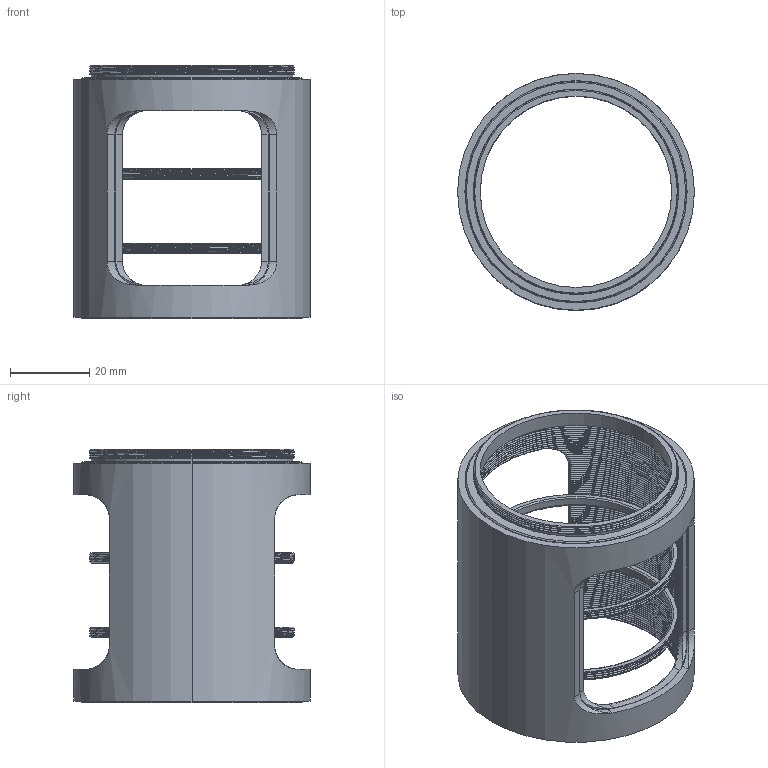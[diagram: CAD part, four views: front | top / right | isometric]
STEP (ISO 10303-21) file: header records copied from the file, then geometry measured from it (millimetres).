
FILE_DESCRIPTION((''),'2;1');
FILE_NAME('CSA2-60V3L_ASM','2021-05-11T',('Administrator'),(''),'CREO PARAMETRIC BY PTC INC, 2015290','CREO PARAMETRIC BY PTC INC, 2015290','');
FILE_SCHEMA(('CONFIG_CONTROL_DESIGN'));
Products named in the file (4): CSA2-60V3L_A1; CSA2-60V3L_A2; CSK4; CSA2-60V3L_ASM
Assembly tree (4 placements, depth 2):
  CSA2-60V3L_ASM
    CSA2-60V3L_A1
    CSA2-60V3L_A2
    CSK4  x2
Bounding box: 59.69 x 59.69 x 63.81 mm (x, y, z)
Volume: 27887.1 mm3; surface area: 38849.1 mm2
Topology: 4 solids, 4 shells, 660 faces, 1897 edges, 1253 vertices
Faces by surface type: bspline 315, cylinder 263, plane 58, cone 24
Entity records: 107659 total; most frequent: CARTESIAN_POINT 94526, ORIENTED_EDGE 3604, EDGE_CURVE 1802, B_SPLINE_CURVE_WITH_KNOTS 1303, DIRECTION 1257, VERTEX_POINT 1191, EDGE_LOOP 649, FACE_OUTER_BOUND 626
